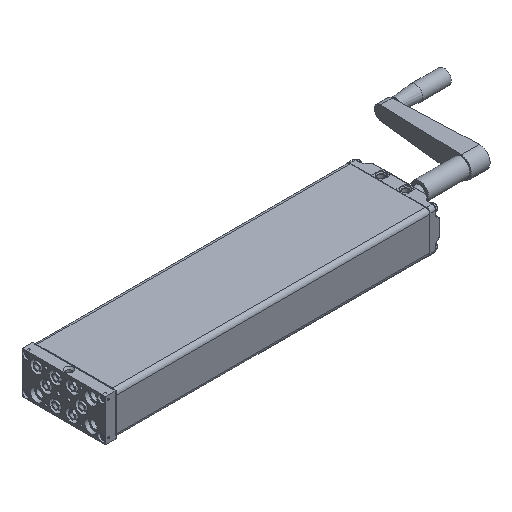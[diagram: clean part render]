
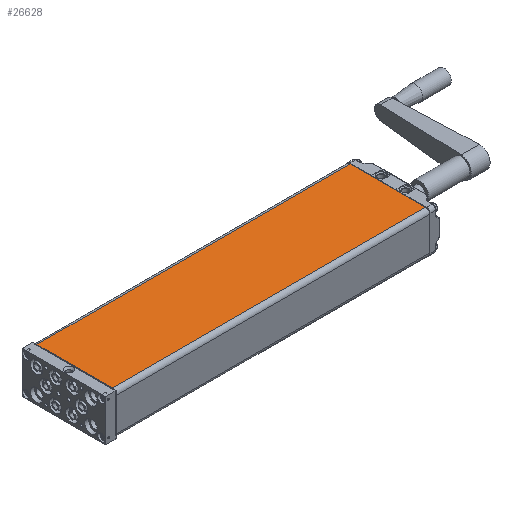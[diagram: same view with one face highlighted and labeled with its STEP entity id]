
A CAD part, isometric view. The second image highlights one B-rep face of the part: STEP entity #26628.
In plain terms, the highlighted planar face has unit normal (0, 0, 1).
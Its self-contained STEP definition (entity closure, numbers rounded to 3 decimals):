
#2493=LINE('',#63534,#3560);
#2494=LINE('',#63537,#3561);
#2495=LINE('',#63539,#3562);
#2496=LINE('',#63541,#3563);
#3560=VECTOR('',#32888,1000.);
#3561=VECTOR('',#32889,1000.);
#3562=VECTOR('',#32890,1000.);
#3563=VECTOR('',#32891,1000.);
#3994=PLANE('',#28456);
#8858=ORIENTED_EDGE('',*,*,#11908,.T.);
#8859=ORIENTED_EDGE('',*,*,#11909,.T.);
#8860=ORIENTED_EDGE('',*,*,#11910,.T.);
#8861=ORIENTED_EDGE('',*,*,#11911,.T.);
#11908=EDGE_CURVE('',#13693,#13694,#2493,.F.);
#11909=EDGE_CURVE('',#13694,#13695,#2494,.T.);
#11910=EDGE_CURVE('',#13695,#13696,#2495,.T.);
#11911=EDGE_CURVE('',#13696,#13693,#2496,.F.);
#13693=VERTEX_POINT('',#63535);
#13694=VERTEX_POINT('',#63536);
#13695=VERTEX_POINT('',#63538);
#13696=VERTEX_POINT('',#63540);
#15917=EDGE_LOOP('',(#8858,#8859,#8860,#8861));
#17458=FACE_BOUND('',#15917,.T.);
#26628=ADVANCED_FACE('',(#17458),#3994,.T.);
#28456=AXIS2_PLACEMENT_3D('',#63533,#32886,#32887);
#32886=DIRECTION('',(0.,0.,1.));
#32887=DIRECTION('',(1.,0.,0.));
#32888=DIRECTION('',(0.,-1.,0.));
#32889=DIRECTION('',(-1.,0.,0.));
#32890=DIRECTION('',(0.,-1.,0.));
#32891=DIRECTION('',(-1.,0.,0.));
#63533=CARTESIAN_POINT('',(60.,450.5,30.));
#63534=CARTESIAN_POINT('',(54.,450.5,30.));
#63535=CARTESIAN_POINT('',(54.,0.5,30.));
#63536=CARTESIAN_POINT('',(54.,450.,30.));
#63537=CARTESIAN_POINT('',(60.,450.,30.));
#63538=CARTESIAN_POINT('',(-54.,450.,30.));
#63539=CARTESIAN_POINT('',(-54.,450.5,30.));
#63540=CARTESIAN_POINT('',(-54.,0.5,30.));
#63541=CARTESIAN_POINT('',(54.,0.5,30.));
